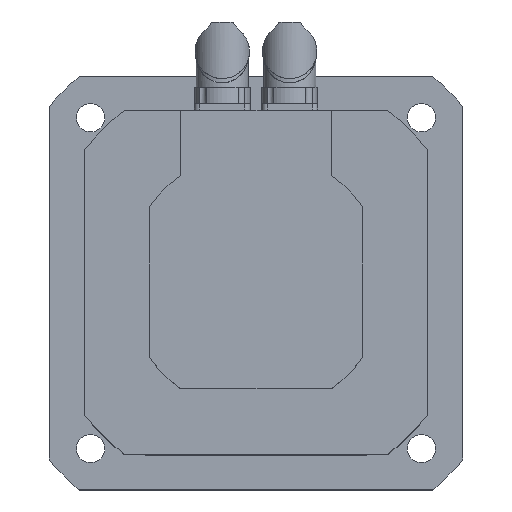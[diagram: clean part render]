
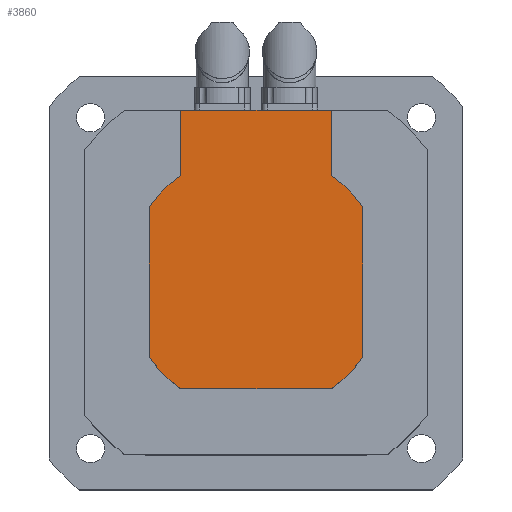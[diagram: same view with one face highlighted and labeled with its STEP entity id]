
A CAD part, top view. The second image highlights one B-rep face of the part: STEP entity #3860.
In plain terms, the highlighted planar face has unit normal (0, 0, 1).
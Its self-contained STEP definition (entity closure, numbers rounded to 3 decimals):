
#3608=CARTESIAN_POINT('',(-49.,-34.627,45.0));
#3609=VERTEX_POINT('',#3608);
#3616=CARTESIAN_POINT('',(-49.,34.627,45.0));
#3617=VERTEX_POINT('',#3616);
#3618=CARTESIAN_POINT('',(-49.,34.627,45.0));
#3619=DIRECTION('',(0.0,-1.0,0.0));
#3620=VECTOR('',#3619,69.253);
#3621=LINE('',#3618,#3620);
#3622=EDGE_CURVE('',#3617,#3609,#3621,.T.);
#3641=CARTESIAN_POINT('',(49.0,34.627,45.0));
#3642=VERTEX_POINT('',#3641);
#3649=CARTESIAN_POINT('',(49.0,-34.627,45.0));
#3650=VERTEX_POINT('',#3649);
#3651=CARTESIAN_POINT('',(49.0,-34.627,45.0));
#3652=DIRECTION('',(0.0,1.0,0.0));
#3653=VECTOR('',#3652,69.253);
#3654=LINE('',#3651,#3653);
#3655=EDGE_CURVE('',#3650,#3642,#3654,.T.);
#3678=CARTESIAN_POINT('',(34.627,-49.,45.0));
#3679=VERTEX_POINT('',#3678);
#3686=CARTESIAN_POINT('',(-34.627,-49.,45.0));
#3687=VERTEX_POINT('',#3686);
#3688=CARTESIAN_POINT('',(-34.627,-49.,45.0));
#3689=DIRECTION('',(1.0,0.0,0.0));
#3690=VECTOR('',#3689,69.253);
#3691=LINE('',#3688,#3690);
#3692=EDGE_CURVE('',#3687,#3679,#3691,.T.);
#3710=CARTESIAN_POINT('',(0.0,0.0,45.0));
#3711=DIRECTION('',(0.0,0.0,-1.0));
#3712=DIRECTION('',(-1.0,0.0,0.0));
#3713=AXIS2_PLACEMENT_3D('',#3710,#3711,#3712);
#3714=CIRCLE('',#3713,60.0);
#3715=EDGE_CURVE('',#3650,#3679,#3714,.T.);
#3729=CARTESIAN_POINT('',(34.627,49.0,45.0));
#3730=VERTEX_POINT('',#3729);
#3737=CARTESIAN_POINT('',(0.0,0.0,45.0));
#3738=DIRECTION('',(0.0,0.0,-1.0));
#3739=DIRECTION('',(-1.0,0.0,0.0));
#3740=AXIS2_PLACEMENT_3D('',#3737,#3738,#3739);
#3741=CIRCLE('',#3740,60.0);
#3742=EDGE_CURVE('',#3730,#3642,#3741,.T.);
#3753=CARTESIAN_POINT('',(-34.627,49.0,45.0));
#3754=VERTEX_POINT('',#3753);
#3755=CARTESIAN_POINT('',(0.0,0.0,45.0));
#3756=DIRECTION('',(0.0,0.0,-1.0));
#3757=DIRECTION('',(-1.0,0.0,0.0));
#3758=AXIS2_PLACEMENT_3D('',#3755,#3756,#3757);
#3759=CIRCLE('',#3758,60.0);
#3760=EDGE_CURVE('',#3617,#3754,#3759,.T.);
#3780=CARTESIAN_POINT('',(0.0,0.0,45.0));
#3781=DIRECTION('',(0.0,0.0,-1.0));
#3782=DIRECTION('',(-1.0,0.0,0.0));
#3783=AXIS2_PLACEMENT_3D('',#3780,#3781,#3782);
#3784=CIRCLE('',#3783,60.0);
#3785=EDGE_CURVE('',#3687,#3609,#3784,.T.);
#3797=CARTESIAN_POINT('',(-34.627,79.0,45.0));
#3798=VERTEX_POINT('',#3797);
#3799=CARTESIAN_POINT('',(-34.627,49.0,45.0));
#3800=DIRECTION('',(0.0,1.0,0.0));
#3801=VECTOR('',#3800,30.0);
#3802=LINE('',#3799,#3801);
#3803=EDGE_CURVE('',#3754,#3798,#3802,.T.);
#3819=CARTESIAN_POINT('',(34.627,79.0,45.0));
#3820=VERTEX_POINT('',#3819);
#3827=CARTESIAN_POINT('',(34.627,49.0,45.0));
#3828=DIRECTION('',(0.0,1.0,0.0));
#3829=VECTOR('',#3828,30.0);
#3830=LINE('',#3827,#3829);
#3831=EDGE_CURVE('',#3730,#3820,#3830,.T.);
#3838=CARTESIAN_POINT('',(49.,-49.,45.0));
#3839=DIRECTION('',(0.0,0.0,-1.0));
#3840=DIRECTION('',(-1.0,0.0,0.0));
#3841=AXIS2_PLACEMENT_3D('',#3838,#3839,#3840);
#3842=PLANE('',#3841);
#3843=ORIENTED_EDGE('',*,*,#3655,.T.);
#3844=ORIENTED_EDGE('',*,*,#3742,.F.);
#3845=ORIENTED_EDGE('',*,*,#3831,.T.);
#3846=CARTESIAN_POINT('',(-34.627,79.0,45.0));
#3847=DIRECTION('',(1.0,0.0,0.0));
#3848=VECTOR('',#3847,69.253);
#3849=LINE('',#3846,#3848);
#3850=EDGE_CURVE('',#3798,#3820,#3849,.T.);
#3851=ORIENTED_EDGE('',*,*,#3850,.F.);
#3852=ORIENTED_EDGE('',*,*,#3803,.F.);
#3853=ORIENTED_EDGE('',*,*,#3760,.F.);
#3854=ORIENTED_EDGE('',*,*,#3622,.T.);
#3855=ORIENTED_EDGE('',*,*,#3785,.F.);
#3856=ORIENTED_EDGE('',*,*,#3692,.T.);
#3857=ORIENTED_EDGE('',*,*,#3715,.F.);
#3858=EDGE_LOOP('',(#3843,#3844,#3845,#3851,#3852,#3853,#3854,#3855,#3856,#3857));
#3859=FACE_OUTER_BOUND('',#3858,.T.);
#3860=ADVANCED_FACE('',(#3859),#3842,.F.);
